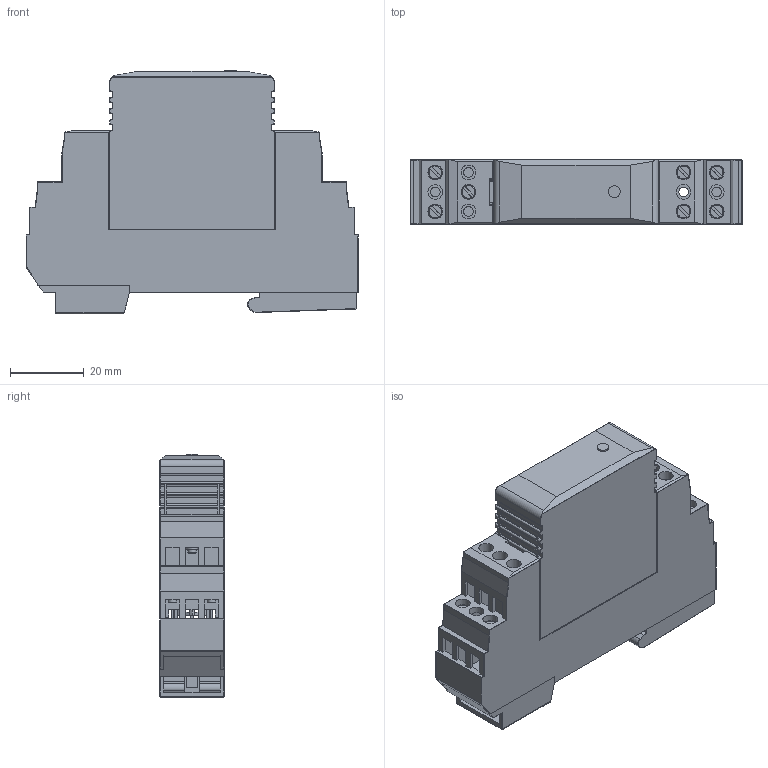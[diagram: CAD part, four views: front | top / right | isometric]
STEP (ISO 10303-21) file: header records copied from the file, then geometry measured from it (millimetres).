
FILE_DESCRIPTION(/* description */ (''),/* implementation_level */ '2;1');
FILE_NAME(/* name */ 'K:\PROJEKTY ROZPRACOVANÉ\MODELY DO KATALOGU\HDT\3D - step\HSAD-S.stp',/* time_stamp */ '2021-07-23T07:27:07+02:00',/* author */ ('miko'),/* organization */ (''),/* preprocessor_version */ 'ST-DEVELOPER v18.1',/* originating_system */ 'Autodesk Inventor 2022',/* authorisation */ '');
FILE_SCHEMA (('AUTOMOTIVE_DESIGN { 1 0 10303 214 3 1 1 }'));
Length unit declared in the file: millimetre
Products named in the file (3): HSAD-S; HSAS, HSAP; ŠROUB
Assembly tree (8 placements, depth 2):
  HSAD-S
    HSAS, HSAP
    ŠROUB  x7
Bounding box: 90.15 x 17.5 x 66.25 mm (x, y, z)
Volume: 49256.6 mm3; surface area: 32661.1 mm2
Topology: 16 solids, 16 shells, 1121 faces, 2880 edges, 1798 vertices
Faces by surface type: plane 665, cylinder 347, torus 54, sphere 28, cone 21, bspline 6
Full cylindrical faces by diameter (mm): 2.3 x14, 2.6 x12, 3 x7, 3.2 x1, 3.8 x7, 4 x18, 6 x1
Entity records: 31214 total; most frequent: CARTESIAN_POINT 5642, ORIENTED_EDGE 5288, DIRECTION 5274, EDGE_CURVE 2644, LINE 2006, VECTOR 2006, VERTEX_POINT 1642, AXIS2_PLACEMENT_3D 1634
